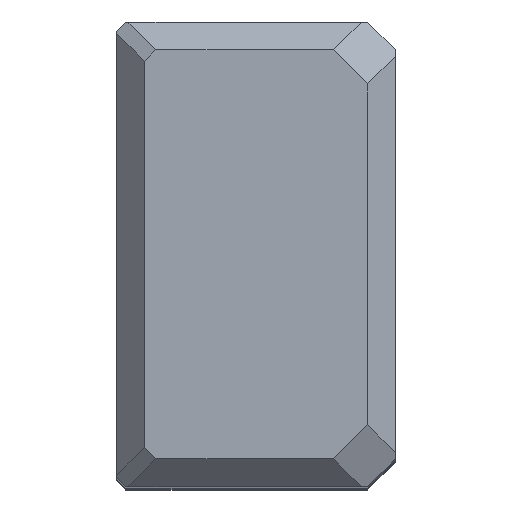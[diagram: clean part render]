
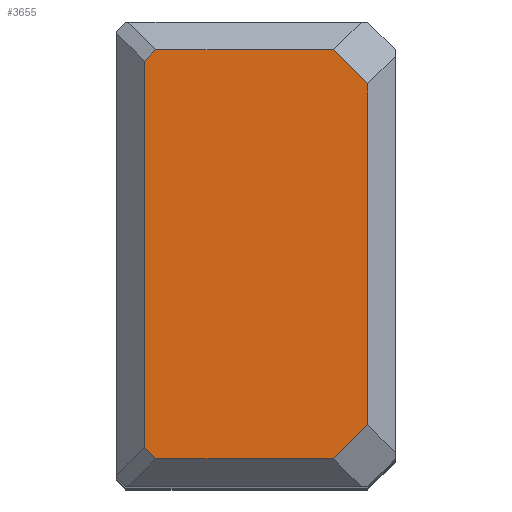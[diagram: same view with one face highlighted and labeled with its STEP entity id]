
A CAD part, top view. The second image highlights one B-rep face of the part: STEP entity #3655.
In plain terms, the highlighted planar face has unit normal (0, 0, 1).
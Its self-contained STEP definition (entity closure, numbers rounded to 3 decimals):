
#111=VERTEX_POINT(' ',#112);
#112=CARTESIAN_POINT('',(-3.,-18.326,0.));
#113=VERTEX_POINT(' ',#114);
#114=CARTESIAN_POINT('',(-6.674,-22.,0.));
#143=VERTEX_POINT(' ',#144);
#144=CARTESIAN_POINT('',(-3.,18.326,0.));
#151=VERTEX_POINT(' ',#152);
#152=CARTESIAN_POINT('',(-6.674,22.,0.));
#181=VERTEX_POINT(' ',#182);
#182=CARTESIAN_POINT('',(-25.775,-22.,0.));
#189=VERTEX_POINT(' ',#190);
#190=CARTESIAN_POINT('',(-27.,-20.775,0.));
#207=VERTEX_POINT(' ',#208);
#208=CARTESIAN_POINT('',(-27.,20.775,0.));
#211=VERTEX_POINT(' ',#212);
#212=CARTESIAN_POINT('',(-25.775,22.,0.));
#764=LINE('',#765,#766);
#765=CARTESIAN_POINT('',(7.663,-7.663,0.));
#766=VECTOR('',#767,1.);
#767=DIRECTION('',(0.707,0.707,0.));
#768=EDGE_CURVE(' ',#111,#113,#764,.F.);
#894=LINE('',#895,#896);
#895=CARTESIAN_POINT('',(-3.,-25.12,0.));
#896=VECTOR('',#897,1.);
#897=DIRECTION('',(0.,1.,0.));
#898=EDGE_CURVE(' ',#111,#143,#894,.T.);
#919=LINE('',#920,#921);
#920=CARTESIAN_POINT('',(7.663,7.663,0.));
#921=VECTOR('',#922,1.);
#922=DIRECTION('',(-0.707,0.707,0.));
#923=EDGE_CURVE(' ',#151,#143,#919,.F.);
#1084=LINE('',#1085,#1086);
#1085=CARTESIAN_POINT('',(-30.12,-22.,0.));
#1086=VECTOR('',#1087,1.);
#1087=DIRECTION('',(1.,0.,0.));
#1088=EDGE_CURVE(' ',#181,#113,#1084,.T.);
#1099=LINE('',#1100,#1101);
#1100=CARTESIAN_POINT('',(-23.888,-23.888,0.));
#1101=VECTOR('',#1102,1.);
#1102=DIRECTION('',(0.707,-0.707,0.));
#1103=EDGE_CURVE(' ',#181,#189,#1099,.F.);
#1191=LINE('',#1192,#1193);
#1192=CARTESIAN_POINT('',(-27.,-25.12,0.));
#1193=VECTOR('',#1194,1.);
#1194=DIRECTION('',(0.,1.,0.));
#1195=EDGE_CURVE(' ',#189,#207,#1191,.T.);
#1196=LINE('',#1197,#1198);
#1197=CARTESIAN_POINT('',(-23.888,23.888,0.));
#1198=VECTOR('',#1199,1.);
#1199=DIRECTION('',(-0.707,-0.707,0.));
#1200=EDGE_CURVE(' ',#207,#211,#1196,.F.);
#1201=LINE('',#1202,#1203);
#1202=CARTESIAN_POINT('',(-30.12,22.,0.));
#1203=VECTOR('',#1204,1.);
#1204=DIRECTION('',(1.,0.,0.));
#1205=EDGE_CURVE(' ',#151,#211,#1201,.F.);
#3640=ORIENTED_EDGE('',*,*,#1200,.F.);
#3641=ORIENTED_EDGE('',*,*,#1195,.F.);
#3642=ORIENTED_EDGE('',*,*,#1103,.F.);
#3643=ORIENTED_EDGE('',*,*,#1088,.T.);
#3644=ORIENTED_EDGE('',*,*,#768,.F.);
#3645=ORIENTED_EDGE('',*,*,#898,.T.);
#3646=ORIENTED_EDGE('',*,*,#923,.F.);
#3647=ORIENTED_EDGE('',*,*,#1205,.T.);
#3648=EDGE_LOOP('',(#3640,#3641,#3642,#3643,#3644,#3645,#3646,#3647));
#3649=FACE_OUTER_BOUND('',#3648,.T.);
#3650=PLANE('',#3651);
#3651=AXIS2_PLACEMENT_3D('',#3652,#3653,#3654);
#3652=CARTESIAN_POINT('',(-27.,0.,0.));
#3653=DIRECTION('',(0.,0.,1.));
#3654=DIRECTION('',(1.,0.,0.));
#3655=ADVANCED_FACE('',(#3649),#3650,.T.);
